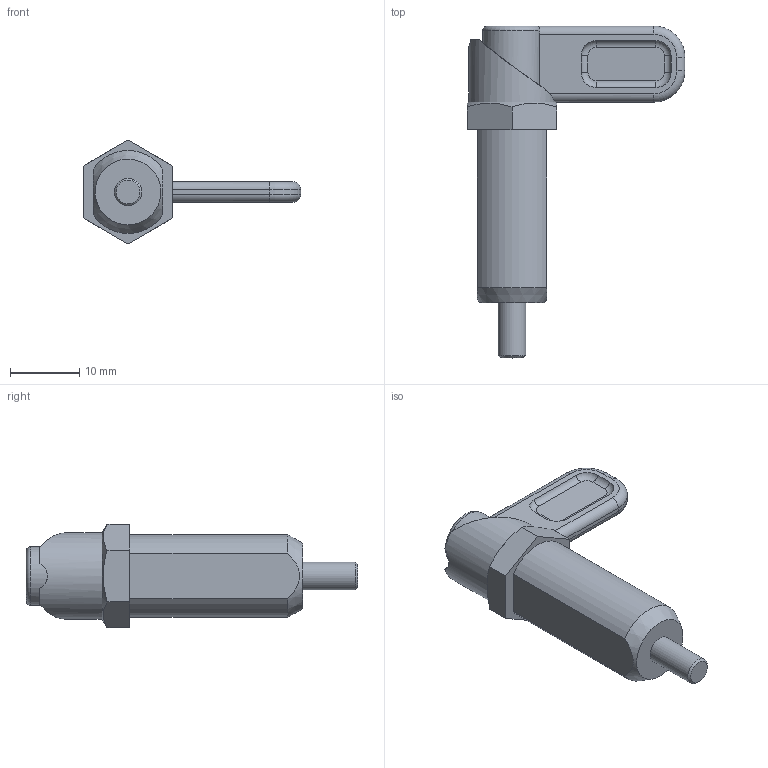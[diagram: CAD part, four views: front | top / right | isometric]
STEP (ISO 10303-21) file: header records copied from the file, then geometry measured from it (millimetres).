
FILE_DESCRIPTION( ( 'STEP AP203' ), '1' );
FILE_NAME( 'C:/Temp/Ganter_Step_05_03_2020/data/3_1/gn_612.8/gn612_8_a/Indexing plunger GN 612.8-4-M12x1,5-A (deactivated).stp', '2020-03-12T09:12:13', ( 'License CC BY-ND 4.0' ), ( 'CADENAS' ), ' ', 'PARTsolutions', ' ' );
FILE_SCHEMA( ( 'CONFIG_CONTROL_DESIGN' ) );
Length unit declared in the file: millimetre
Products named in the file (3): Indexing plunger GN 612.8-4-M12x1,5-A (deactivated); _Indexing plunger GN 612.8-4-M12x1,5-A (1)_2; _Rastriegel GN 612.8-4-M12x1,5-A (1)_1
Assembly tree (2 placements, depth 2):
  Indexing plunger GN 612.8-4-M12x1,5-A (deactivated)
    _Indexing plunger GN 612.8-4-M12x1,5-A (1)_2
    _Rastriegel GN 612.8-4-M12x1,5-A (1)_1
Bounding box: 31.5 x 48 x 15.01 mm (x, y, z)
Volume: 4632.3 mm3; surface area: 3501.7 mm2
Topology: 2 solids, 2 shells, 74 faces, 172 edges, 110 vertices
Faces by surface type: cylinder 33, plane 25, torus 13, cone 3
Full cylindrical faces by diameter (mm): 4 x4, 5 x2, 9 x1, 12.5 x1
Entity records: 2470 total; most frequent: CARTESIAN_POINT 710, DIRECTION 358, ORIENTED_EDGE 322, EDGE_CURVE 161, AXIS2_PLACEMENT_3D 150, VERTEX_POINT 108, EDGE_LOOP 93, FACE_OUTER_BOUND 80
